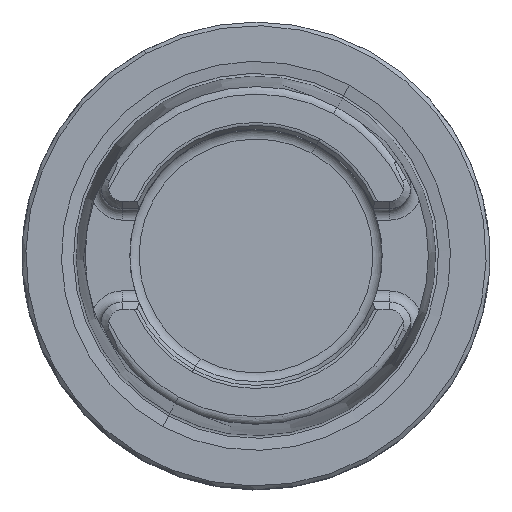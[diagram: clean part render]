
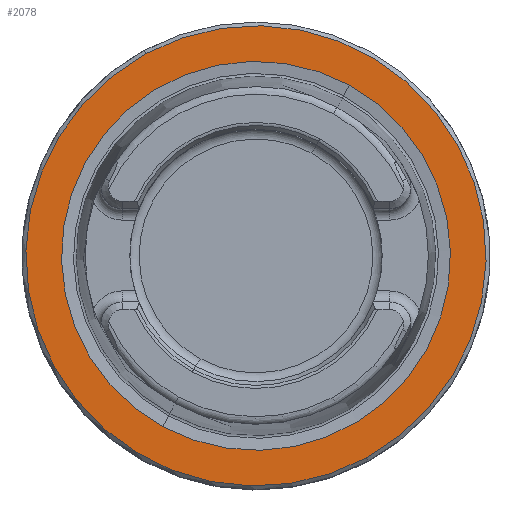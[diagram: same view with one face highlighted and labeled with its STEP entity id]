
A CAD part, top view. The second image highlights one B-rep face of the part: STEP entity #2078.
In plain terms, the highlighted planar face has unit normal (0, 0, 1).
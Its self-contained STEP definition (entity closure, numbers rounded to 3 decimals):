
#2015=AXIS2_PLACEMENT_3D('Circle Axis2P3D',#2013,#2014,$) ;
#2041=AXIS2_PLACEMENT_3D('Circle Axis2P3D',#2039,#2040,$) ;
#2054=AXIS2_PLACEMENT_3D('Plane Axis2P3D',#2051,#2052,#2053) ;
#2058=AXIS2_PLACEMENT_3D('Circle Axis2P3D',#2056,#2057,$) ;
#2067=AXIS2_PLACEMENT_3D('Circle Axis2P3D',#2065,#2066,$) ;
#2013=CARTESIAN_POINT('Axis2P3D Location',(0.,0.,0.)) ;
#2017=CARTESIAN_POINT('Vertex',(12.561,22.993,0.)) ;
#2019=CARTESIAN_POINT('Vertex',(-12.561,-22.993,0.)) ;
#2039=CARTESIAN_POINT('Axis2P3D Location',(0.,0.,0.)) ;
#2051=CARTESIAN_POINT('Axis2P3D Location',(0.,-24.321,0.)) ;
#2056=CARTESIAN_POINT('Axis2P3D Location',(0.,0.,0.)) ;
#2060=CARTESIAN_POINT('Vertex',(14.862,-27.205,0.)) ;
#2062=CARTESIAN_POINT('Vertex',(-14.862,27.205,0.)) ;
#2065=CARTESIAN_POINT('Axis2P3D Location',(0.,0.,0.)) ;
#2014=DIRECTION('Axis2P3D Direction',(0.,0.,1.)) ;
#2040=DIRECTION('Axis2P3D Direction',(0.,0.,1.)) ;
#2052=DIRECTION('Axis2P3D Direction',(0.,0.,-1.)) ;
#2053=DIRECTION('Axis2P3D XDirection',(-1.,0.,0.)) ;
#2057=DIRECTION('Axis2P3D Direction',(0.,0.,-1.)) ;
#2066=DIRECTION('Axis2P3D Direction',(0.,0.,-1.)) ;
#2071=ORIENTED_EDGE('',*,*,#2064,.F.) ;
#2072=ORIENTED_EDGE('',*,*,#2069,.F.) ;
#2075=ORIENTED_EDGE('',*,*,#2021,.T.) ;
#2076=ORIENTED_EDGE('',*,*,#2043,.T.) ;
#2077=FACE_BOUND('',#2074,.T.) ;
#2078=ADVANCED_FACE('NO_CUT',(#2073,#2077),#2055,.F.) ;
#2016=CIRCLE('generated circle',#2015,26.2) ;
#2042=CIRCLE('generated circle',#2041,26.2) ;
#2059=CIRCLE('generated circle',#2058,31.) ;
#2068=CIRCLE('generated circle',#2067,31.) ;
#2021=EDGE_CURVE('',#2018,#2020,#2016,.F.) ;
#2043=EDGE_CURVE('',#2020,#2018,#2042,.F.) ;
#2064=EDGE_CURVE('',#2061,#2063,#2059,.T.) ;
#2069=EDGE_CURVE('',#2063,#2061,#2068,.T.) ;
#2070=EDGE_LOOP('',(#2071,#2072)) ;
#2074=EDGE_LOOP('',(#2075,#2076)) ;
#2073=FACE_OUTER_BOUND('',#2070,.T.) ;
#2055=PLANE('',#2054) ;
#2018=VERTEX_POINT('',#2017) ;
#2020=VERTEX_POINT('',#2019) ;
#2061=VERTEX_POINT('',#2060) ;
#2063=VERTEX_POINT('',#2062) ;
